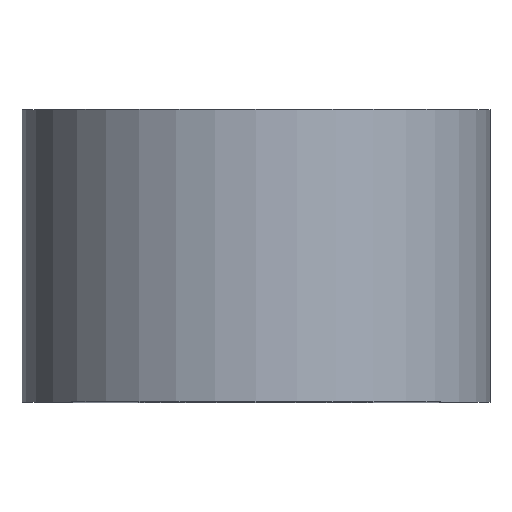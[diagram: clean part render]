
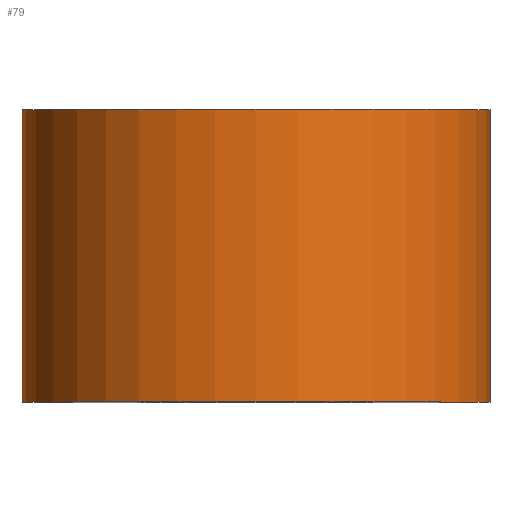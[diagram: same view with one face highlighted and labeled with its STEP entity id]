
A CAD part, top view. The second image highlights one B-rep face of the part: STEP entity #79.
In plain terms, the highlighted cylindrical face has radius 4 mm (diameter 8 mm), a full revolution.
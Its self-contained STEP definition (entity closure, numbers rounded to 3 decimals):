
#1 = DIRECTION ( 'NONE',  ( 0., 0., -1. ) ) ;
#3 = CYLINDRICAL_SURFACE ( 'NONE', #56, 4. ) ;
#4 = EDGE_LOOP ( 'NONE', ( #15 ) ) ;
#7 = ORIENTED_EDGE ( 'NONE', *, *, #17, .T. ) ;
#9 = DIRECTION ( 'NONE',  ( 0., 0., 1. ) ) ;
#11 = CARTESIAN_POINT ( 'NONE',  ( 0., 0., 4. ) ) ;
#15 = ORIENTED_EDGE ( 'NONE', *, *, #94, .F. ) ;
#17 = EDGE_CURVE ( 'NONE', #106, #106, #68, .T. ) ;
#31 = CIRCLE ( 'NONE', #98, 4. ) ;
#32 = DIRECTION ( 'NONE',  ( 0., 1., 0. ) ) ;
#38 = CARTESIAN_POINT ( 'NONE',  ( 0., 0., 0. ) ) ;
#39 = DIRECTION ( 'NONE',  ( 0., 0., 1. ) ) ;
#41 = CARTESIAN_POINT ( 'NONE',  ( 0., 5., 4. ) ) ;
#47 = EDGE_LOOP ( 'NONE', ( #7 ) ) ;
#56 = AXIS2_PLACEMENT_3D ( 'NONE', #95, #114, #1 ) ;
#59 = DIRECTION ( 'NONE',  ( 0., 1., 0. ) ) ;
#60 = FACE_OUTER_BOUND ( 'NONE', #4, .T. ) ;
#62 = VERTEX_POINT ( 'NONE', #41 ) ;
#68 = CIRCLE ( 'NONE', #75, 4. ) ;
#74 = CARTESIAN_POINT ( 'NONE',  ( 0., 5., 0. ) ) ;
#75 = AXIS2_PLACEMENT_3D ( 'NONE', #38, #59, #9 ) ;
#79 = ADVANCED_FACE ( 'NONE', ( #60, #82 ), #3, .T. ) ;
#82 = FACE_OUTER_BOUND ( 'NONE', #47, .T. ) ;
#94 = EDGE_CURVE ( 'NONE', #62, #62, #31, .T. ) ;
#95 = CARTESIAN_POINT ( 'NONE',  ( 0., 5., 0. ) ) ;
#98 = AXIS2_PLACEMENT_3D ( 'NONE', #74, #32, #39 ) ;
#106 = VERTEX_POINT ( 'NONE', #11 ) ;
#114 = DIRECTION ( 'NONE',  ( 0., -1., 0. ) ) ;
